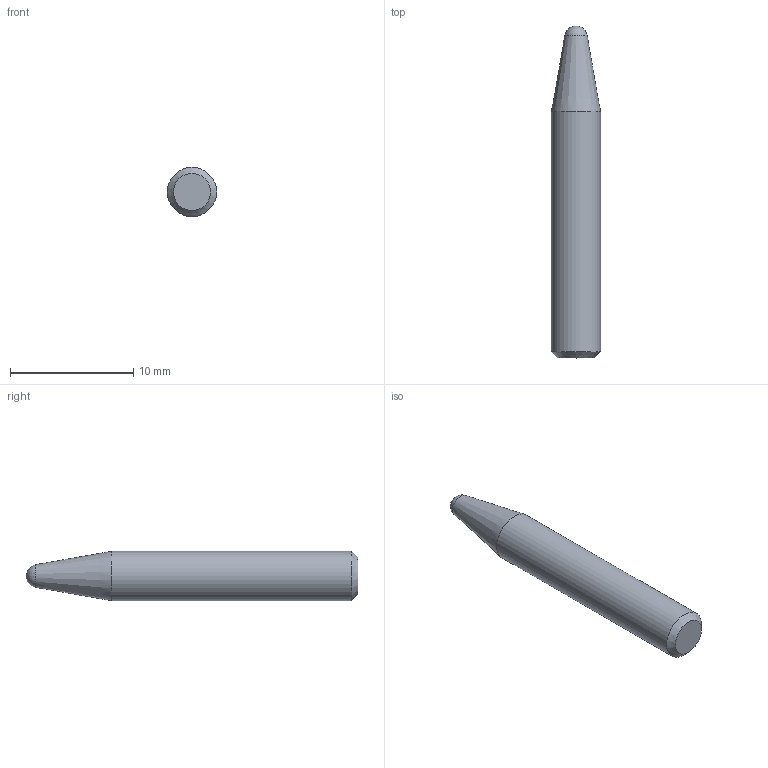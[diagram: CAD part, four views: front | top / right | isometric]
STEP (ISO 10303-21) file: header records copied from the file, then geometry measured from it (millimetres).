
FILE_DESCRIPTION(/* description */ (' Dowel Pin 4mm'),/* implementation_level */ '2;1');
FILE_NAME(/* name */ 'Z:\Werkstatt Server\Projekte\Atlas\Entwicklung u. Konstruktion\Konstruktion\CAD Daten\ITkPixToolV2.0\Baremodule Jig\ITPTv2.01.00.20.stp',/* time_stamp */ '2021-08-06T14:56:46+02:00',/* author */ ('Tim Kanngießer'),/* organization */ (''),/* preprocessor_version */ 'ST-DEVELOPER v18.1',/* originating_system */ 'Autodesk Inventor 2022',/* authorisation */ '');
FILE_SCHEMA (('AP203_CONFIGURATION_CONTROLLED_3D_DESIGN_OF_MECHANICAL_PARTS_AND_ASSEMBLIES_MIM_LF { 1 0 10303 203 3 1 4 }','AUTOMOTIVE_DESIGN { 1 0 10303 214 3 1 1 }'));
Length unit declared in the file: millimetre
Products named in the file (1): ITPTv2.01.00.20
Bounding box: 4 x 26.93 x 4 mm (x, y, z)
Volume: 294.1 mm3; surface area: 321.6 mm2
Topology: 1 solids, 1 shells, 5 faces, 8 edges, 5 vertices
Faces by surface type: cone 2, plane 1, cylinder 1, sphere 1
Full cylindrical faces by diameter (mm): 4 x1
Entity records: 160 total; most frequent: DIRECTION 25, CARTESIAN_POINT 19, ORIENTED_EDGE 16, AXIS2_PLACEMENT_3D 11, EDGE_CURVE 8, FACE_OUTER_BOUND 5, EDGE_LOOP 5, CIRCLE 5
